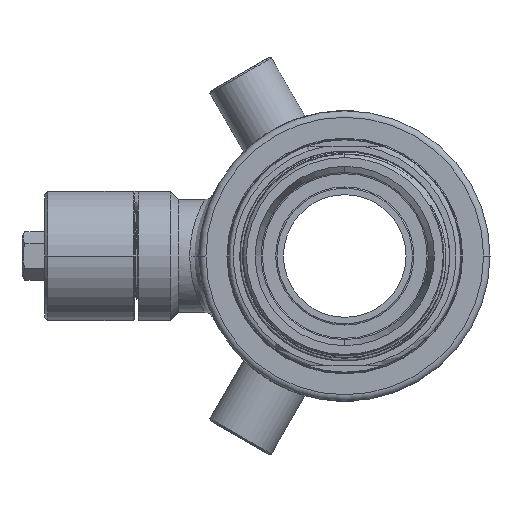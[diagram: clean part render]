
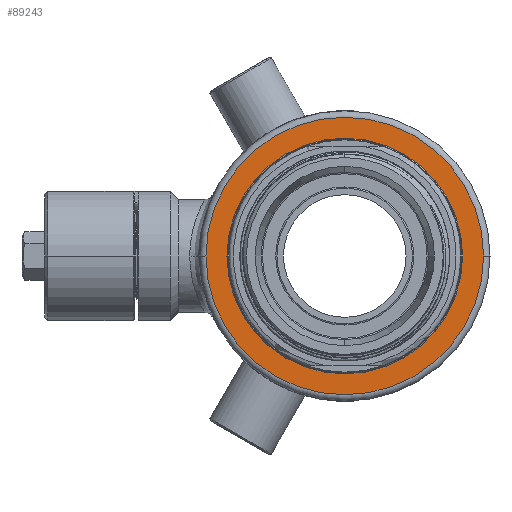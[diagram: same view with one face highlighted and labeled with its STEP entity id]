
A CAD part, left-side view. The second image highlights one B-rep face of the part: STEP entity #89243.
In plain terms, the highlighted planar face has unit normal (-1, 0, 0).
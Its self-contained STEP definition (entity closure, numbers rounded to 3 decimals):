
#40404=CARTESIAN_POINT('',(-29.,0.,0.));
#40405=DIRECTION('',(-1.,0.,0.));
#40406=DIRECTION('',(0.,-1.,0.));
#40407=AXIS2_PLACEMENT_3D('',#40404,#40405,#40406);
#40412=CARTESIAN_POINT('',(-29.,0.,0.));
#40413=DIRECTION('',(-1.,0.,0.));
#40414=DIRECTION('',(0.,1.,0.));
#40415=AXIS2_PLACEMENT_3D('',#40412,#40413,#40414);
#40428=CARTESIAN_POINT('',(-29.,0.,0.));
#40429=DIRECTION('',(-1.,0.,0.));
#40430=DIRECTION('',(0.,0.,1.));
#40431=AXIS2_PLACEMENT_3D('',#40428,#40429,#40430);
#40444=CARTESIAN_POINT('',(-29.,0.,0.));
#40445=DIRECTION('',(-1.,0.,0.));
#40446=DIRECTION('',(0.,0.,-1.));
#40447=AXIS2_PLACEMENT_3D('',#40444,#40445,#40446);
#51003=CARTESIAN_POINT('',(-29.,-43.,0.));
#51004=CARTESIAN_POINT('',(-29.,43.,0.));
#51005=VERTEX_POINT('',#51003);
#51006=VERTEX_POINT('',#51004);
#51316=CARTESIAN_POINT('',(-29.,0.,36.5));
#51317=CARTESIAN_POINT('',(-29.,0.,-36.5));
#51318=VERTEX_POINT('',#51316);
#51319=VERTEX_POINT('',#51317);
#89227=CARTESIAN_POINT('',(-29.,0.,0.));
#89228=DIRECTION('',(-1.,0.,0.));
#89229=DIRECTION('',(0.,1.,0.));
#89230=AXIS2_PLACEMENT_3D('',#89227,#89228,#89229);
#89231=PLANE('',#89230);
#89233=ORIENTED_EDGE('',*,*,#89232,.F.);
#89234=ORIENTED_EDGE('',*,*,#89217,.F.);
#89235=EDGE_LOOP('',(#89233,#89234));
#89236=FACE_OUTER_BOUND('',#89235,.F.);
#89238=ORIENTED_EDGE('',*,*,#89237,.T.);
#89240=ORIENTED_EDGE('',*,*,#89239,.T.);
#89241=EDGE_LOOP('',(#89238,#89240));
#89242=FACE_BOUND('',#89241,.F.);
#89243=ADVANCED_FACE('',(#89236,#89242),#89231,.T.);
#40408=CIRCLE('',#40407,43.);
#40416=CIRCLE('',#40415,43.);
#40432=CIRCLE('',#40431,36.5);
#40448=CIRCLE('',#40447,36.5);
#89217=EDGE_CURVE('',#51006,#51005,#40416,.T.);
#89232=EDGE_CURVE('',#51005,#51006,#40408,.T.);
#89237=EDGE_CURVE('',#51318,#51319,#40432,.T.);
#89239=EDGE_CURVE('',#51319,#51318,#40448,.T.);
